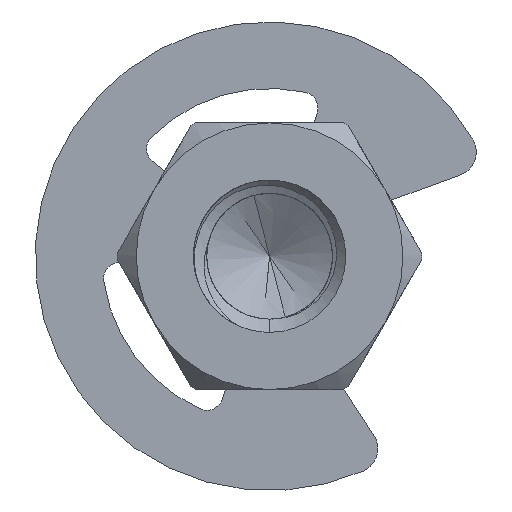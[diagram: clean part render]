
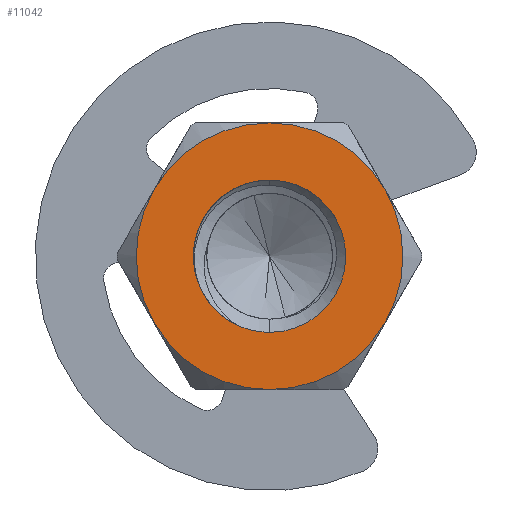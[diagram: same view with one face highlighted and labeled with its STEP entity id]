
A CAD part, front view. The second image highlights one B-rep face of the part: STEP entity #11042.
In plain terms, the highlighted planar face has unit normal (0, -1, 0).
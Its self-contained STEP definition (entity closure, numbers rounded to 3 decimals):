
#122 = CIRCLE ( 'NONE', #2949, 3.5 ) ;
#187 = AXIS2_PLACEMENT_3D ( 'NONE', #11174, #850, #9106 ) ;
#304 = ORIENTED_EDGE ( 'NONE', *, *, #2438, .T. ) ;
#421 = EDGE_CURVE ( 'NONE', #7766, #5278, #122, .T. ) ;
#724 = DIRECTION ( 'NONE',  ( 0., 1., 0. ) ) ;
#803 = DIRECTION ( 'NONE',  ( 0., 1., 0. ) ) ;
#850 = DIRECTION ( 'NONE',  ( 0., 1., 0. ) ) ;
#1243 = AXIS2_PLACEMENT_3D ( 'NONE', #4117, #6211, #13302 ) ;
#1279 = DIRECTION ( 'NONE',  ( 0., 0., 1. ) ) ;
#1454 = EDGE_LOOP ( 'NONE', ( #1844, #13012, #304, #2673 ) ) ;
#1501 = DIRECTION ( 'NONE',  ( 0., 0., 1. ) ) ;
#1844 = ORIENTED_EDGE ( 'NONE', *, *, #2980, .T. ) ;
#1878 = ORIENTED_EDGE ( 'NONE', *, *, #13267, .F. ) ;
#1908 = EDGE_CURVE ( 'NONE', #5278, #13507, #5011, .T. ) ;
#1917 = CARTESIAN_POINT ( 'NONE',  ( -0.833, 0., -1.818 ) ) ;
#1937 = DIRECTION ( 'NONE',  ( 0., 1., 0. ) ) ;
#1984 = AXIS2_PLACEMENT_3D ( 'NONE', #2060, #9369, #7136 ) ;
#2060 = CARTESIAN_POINT ( 'NONE',  ( 0., 0., 0. ) ) ;
#2165 = AXIS2_PLACEMENT_3D ( 'NONE', #3918, #803, #4893 ) ;
#2438 = EDGE_CURVE ( 'NONE', #7287, #11212, #10539, .T. ) ;
#2451 = CIRCLE ( 'NONE', #4931, 3.5 ) ;
#2628 = EDGE_LOOP ( 'NONE', ( #4887, #8888, #12851, #10778, #7714, #1878 ) ) ;
#2673 = ORIENTED_EDGE ( 'NONE', *, *, #12234, .T. ) ;
#2821 = VERTEX_POINT ( 'NONE', #8821 ) ;
#2949 = AXIS2_PLACEMENT_3D ( 'NONE', #5790, #10945, #7809 ) ;
#2980 = EDGE_CURVE ( 'NONE', #8968, #4874, #13429, .T. ) ;
#3184 = AXIS2_PLACEMENT_3D ( 'NONE', #4527, #6462, #1279 ) ;
#3189 = CARTESIAN_POINT ( 'NONE',  ( -3.031, 0., -1.75 ) ) ;
#3236 = CIRCLE ( 'NONE', #9516, 3.5 ) ;
#3263 = CARTESIAN_POINT ( 'NONE',  ( 0., 0., 0. ) ) ;
#3531 = CARTESIAN_POINT ( 'NONE',  ( 0., 0., 0. ) ) ;
#3738 = CARTESIAN_POINT ( 'NONE',  ( 0., 0., 2. ) ) ;
#3918 = CARTESIAN_POINT ( 'NONE',  ( 0., 0., 0. ) ) ;
#4102 = DIRECTION ( 'NONE',  ( 0., 1., 0. ) ) ;
#4117 = CARTESIAN_POINT ( 'NONE',  ( 0., 0., 0. ) ) ;
#4251 = CIRCLE ( 'NONE', #2165, 3.5 ) ;
#4527 = CARTESIAN_POINT ( 'NONE',  ( 0., 0., 0. ) ) ;
#4799 = AXIS2_PLACEMENT_3D ( 'NONE', #9449, #4102, #5201 ) ;
#4874 = VERTEX_POINT ( 'NONE', #8467 ) ;
#4887 = ORIENTED_EDGE ( 'NONE', *, *, #1908, .F. ) ;
#4893 = DIRECTION ( 'NONE',  ( 0., 0., 1. ) ) ;
#4931 = AXIS2_PLACEMENT_3D ( 'NONE', #3263, #6422, #7483 ) ;
#4940 = EDGE_CURVE ( 'NONE', #2821, #9323, #2451, .T. ) ;
#5011 = CIRCLE ( 'NONE', #4799, 3.5 ) ;
#5201 = DIRECTION ( 'NONE',  ( 0., 0., 1. ) ) ;
#5278 = VERTEX_POINT ( 'NONE', #7406 ) ;
#5790 = CARTESIAN_POINT ( 'NONE',  ( 0., 0., 0. ) ) ;
#6211 = DIRECTION ( 'NONE',  ( 0., 1., 0. ) ) ;
#6214 = FACE_OUTER_BOUND ( 'NONE', #2628, .T. ) ;
#6358 = EDGE_CURVE ( 'NONE', #12574, #2821, #3236, .T. ) ;
#6422 = DIRECTION ( 'NONE',  ( 0., 1., 0. ) ) ;
#6462 = DIRECTION ( 'NONE',  ( 0., 1., 0. ) ) ;
#6986 = PLANE ( 'NONE',  #1984 ) ;
#7136 = DIRECTION ( 'NONE',  ( 0., 0., 1. ) ) ;
#7287 = VERTEX_POINT ( 'NONE', #3738 ) ;
#7406 = CARTESIAN_POINT ( 'NONE',  ( 0., 0., 3.5 ) ) ;
#7483 = DIRECTION ( 'NONE',  ( 0., 0., 1. ) ) ;
#7714 = ORIENTED_EDGE ( 'NONE', *, *, #6358, .F. ) ;
#7766 = VERTEX_POINT ( 'NONE', #11918 ) ;
#7809 = DIRECTION ( 'NONE',  ( 0., 0., 1. ) ) ;
#8117 = CARTESIAN_POINT ( 'NONE',  ( 3.031, 0., 1.75 ) ) ;
#8195 = CARTESIAN_POINT ( 'NONE',  ( 0., 0., 0. ) ) ;
#8467 = CARTESIAN_POINT ( 'NONE',  ( -1.863, 0., -0.728 ) ) ;
#8715 = AXIS2_PLACEMENT_3D ( 'NONE', #12167, #724, #10189 ) ;
#8821 = CARTESIAN_POINT ( 'NONE',  ( 0., 0., -3.5 ) ) ;
#8888 = ORIENTED_EDGE ( 'NONE', *, *, #421, .F. ) ;
#8968 = VERTEX_POINT ( 'NONE', #1917 ) ;
#9019 = FACE_BOUND ( 'NONE', #1454, .T. ) ;
#9106 = DIRECTION ( 'NONE',  ( 0., 0., 1. ) ) ;
#9323 = VERTEX_POINT ( 'NONE', #3189 ) ;
#9369 = DIRECTION ( 'NONE',  ( 0., 1., 0. ) ) ;
#9449 = CARTESIAN_POINT ( 'NONE',  ( 0., 0., 0. ) ) ;
#9516 = AXIS2_PLACEMENT_3D ( 'NONE', #3531, #10840, #1501 ) ;
#9779 = CIRCLE ( 'NONE', #10466, 2. ) ;
#9825 = CARTESIAN_POINT ( 'NONE',  ( 0., 0., -2. ) ) ;
#10189 = DIRECTION ( 'NONE',  ( 0., 0., 1. ) ) ;
#10466 = AXIS2_PLACEMENT_3D ( 'NONE', #8195, #1937, #11324 ) ;
#10539 = CIRCLE ( 'NONE', #1243, 2. ) ;
#10778 = ORIENTED_EDGE ( 'NONE', *, *, #4940, .F. ) ;
#10780 = EDGE_CURVE ( 'NONE', #9323, #7766, #12407, .T. ) ;
#10840 = DIRECTION ( 'NONE',  ( 0., 1., 0. ) ) ;
#10945 = DIRECTION ( 'NONE',  ( 0., 1., 0. ) ) ;
#11042 = ADVANCED_FACE ( 'NONE', ( #9019, #6214 ), #6986, .F. ) ;
#11174 = CARTESIAN_POINT ( 'NONE',  ( 0., 0., 0. ) ) ;
#11212 = VERTEX_POINT ( 'NONE', #9825 ) ;
#11282 = CARTESIAN_POINT ( 'NONE',  ( 3.031, 0., -1.75 ) ) ;
#11324 = DIRECTION ( 'NONE',  ( 0., 0., 1. ) ) ;
#11571 = CIRCLE ( 'NONE', #3184, 2. ) ;
#11918 = CARTESIAN_POINT ( 'NONE',  ( -3.031, 0., 1.75 ) ) ;
#12167 = CARTESIAN_POINT ( 'NONE',  ( 0., 0., 0. ) ) ;
#12234 = EDGE_CURVE ( 'NONE', #11212, #8968, #11571, .T. ) ;
#12407 = CIRCLE ( 'NONE', #8715, 3.5 ) ;
#12574 = VERTEX_POINT ( 'NONE', #11282 ) ;
#12576 = EDGE_CURVE ( 'NONE', #4874, #7287, #9779, .T. ) ;
#12851 = ORIENTED_EDGE ( 'NONE', *, *, #10780, .F. ) ;
#13012 = ORIENTED_EDGE ( 'NONE', *, *, #12576, .T. ) ;
#13267 = EDGE_CURVE ( 'NONE', #13507, #12574, #4251, .T. ) ;
#13302 = DIRECTION ( 'NONE',  ( 0., 0., 1. ) ) ;
#13429 = CIRCLE ( 'NONE', #187, 2. ) ;
#13507 = VERTEX_POINT ( 'NONE', #8117 ) ;
